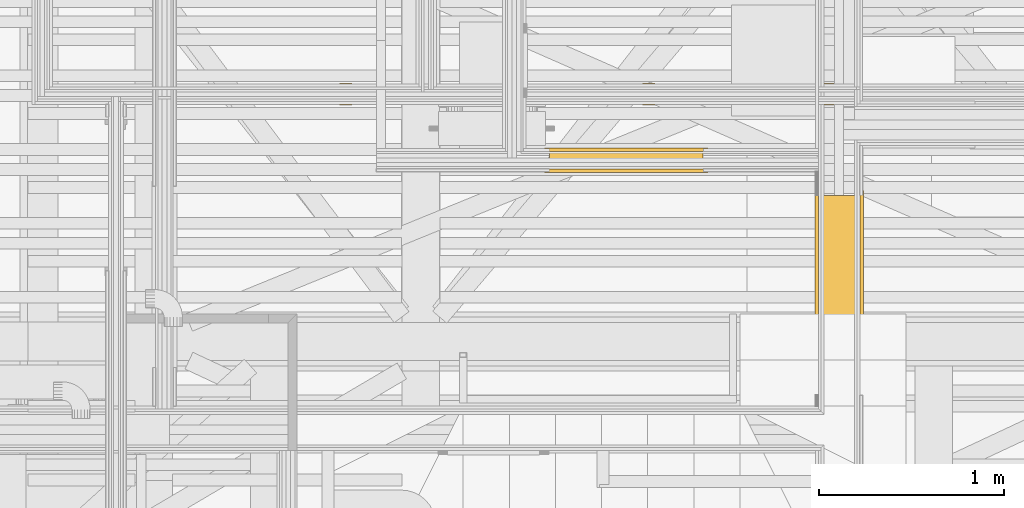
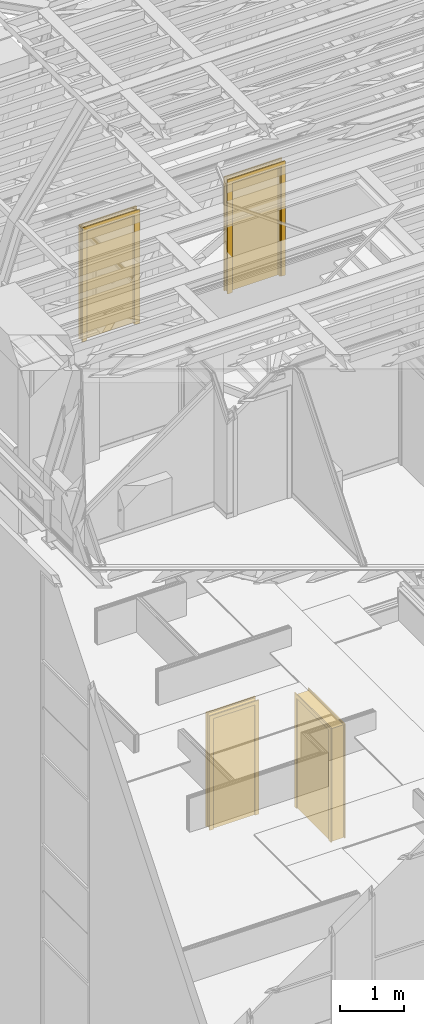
# One storey, part 123 of 183: 4 doors.
"""IFC2X3 building model written with IfcOpenShell, lengths in metres."""

import ifcopenshell
import ifcopenshell.guid

model = None  # the IFC model being written
_history = None  # IfcOwnerHistory: only IFC2X3 demands one
_inside = {}  # id of a spatial element -> (the spatial element, [elements in it])
_under = {}  # id of a project, library or spatial element -> (it, [spatial elements below it])
_declared = {}  # id of a project -> (the project, [libraries it declares])
_typed = {}  # id of a type object -> (the type object, [elements of that type])
_made_of = {}  # id of a material, layer set ... -> (it, [elements and type objects made of it])


def new_model(schema):
    """Start an empty IFC model of exactly this schema.

    Asked for "IFC4X3", IfcOpenShell would pick the latest addendum, in which some entities
    have other attributes; the version numbers below select the first issue.
    IFC2X3 requires an IfcOwnerHistory on every rooted entity: one is made here for all.
    """
    global model, _history
    if schema == "IFC4X3":
        model = ifcopenshell.file(schema_version=(4, 3, 0, 0))
    else:
        model = ifcopenshell.file(schema=schema)
    _inside.clear()
    _under.clear()
    _declared.clear()
    _typed.clear()
    _made_of.clear()
    _history = None
    if model.schema == "IFC2X3":
        org = make("IfcOrganization", Name="unknown")
        user = make(
            "IfcPersonAndOrganization",
            ThePerson=make("IfcPerson", FamilyName="unknown"),
            TheOrganization=org,
        )
        app = make(
            "IfcApplication",
            ApplicationDeveloper=org,
            Version="unknown",
            ApplicationFullName="unknown",
            ApplicationIdentifier="unknown",
        )
        _history = make(
            "IfcOwnerHistory",
            OwningUser=user,
            OwningApplication=app,
            ChangeAction="ADDED",
            CreationDate=0,
        )
    return model


def make(cls, **values):
    """One entity of the class cls with the attributes given. An attribute that is None is left unset."""
    return model.create_entity(
        cls, **{name: value for name, value in values.items() if value is not None}
    )


def entity(cls, *values):
    """Any entity or typed value of the class cls, its attributes in the order of the schema. None: left unset."""
    e = model.create_entity(cls)
    for i, value in enumerate(values):
        if value is not None:
            e[i] = value
    return e


def rooted(cls, **values):
    """An entity with a GlobalId (a new one), such as an element, a storey or a relation."""
    return make(cls, GlobalId=ifcopenshell.guid.new(), OwnerHistory=_history, **values)


def si_unit(unit_type, name, prefix=None):
    """IfcSIUnit, for example si_unit("LENGTHUNIT", "METRE", prefix="MILLI")."""
    return make("IfcSIUnit", UnitType=unit_type, Prefix=prefix, Name=name)


def converted_unit(unit_type, name, factor, base, dimensions=None, offset=None):
    """IfcConversionBasedUnit, such as the inch: factor (a typed value) times the base unit."""
    return make(
        "IfcConversionBasedUnit"
        if offset is None
        else "IfcConversionBasedUnitWithOffset",
        ConversionOffset=offset,
        Dimensions=None
        if dimensions is None
        else entity("IfcDimensionalExponents", *dimensions),
        UnitType=unit_type,
        Name=name,
        ConversionFactor=make(
            "IfcMeasureWithUnit", ValueComponent=factor, UnitComponent=base
        ),
    )


def derived_unit(unit_type, elements):
    """IfcDerivedUnit: a product of units, each with its exponent."""
    return make(
        "IfcDerivedUnit",
        Elements=[
            make("IfcDerivedUnitElement", Unit=unit, Exponent=power)
            for unit, power in elements
        ],
        UnitType=unit_type,
    )


def money_unit(currency):
    """IfcMonetaryUnit."""
    return make("IfcMonetaryUnit", Currency=currency)


def assignment(units):
    """IfcUnitAssignment: the units of a project."""
    return None if units is None else make("IfcUnitAssignment", Units=units)


def point(xyz):
    """IfcCartesianPoint."""
    return None if xyz is None else make("IfcCartesianPoint", Coordinates=xyz)


def direction(xyz):
    """IfcDirection."""
    return None if xyz is None else make("IfcDirection", DirectionRatios=xyz)


def frame(location, z_axis=None, x_axis=None):
    """IfcAxis2Placement3D, a coordinate frame: its origin and axes. An axis left out is left unset."""
    return make(
        "IfcAxis2Placement3D",
        Location=point(location),
        Axis=direction(z_axis),
        RefDirection=direction(x_axis),
    )


def origin_with_axes():
    """The frame at (0, 0, 0) with the z axis (0, 0, 1) and the x axis (1, 0, 0) written out."""
    return frame((0.0, 0.0, 0.0), z_axis=(0.0, 0.0, 1.0), x_axis=(1.0, 0.0, 0.0))


def place(relative_to, where):
    """IfcLocalPlacement: puts the frame where relative to a parent placement (None: the world)."""
    return make(
        "IfcLocalPlacement", PlacementRelTo=relative_to, RelativePlacement=where
    )


def context(
    kind, dimensions, precision=None, world=None, true_north=None, identifier=None
):
    """IfcGeometricRepresentationContext, for example the 3D "Model" context."""
    return make(
        "IfcGeometricRepresentationContext",
        ContextIdentifier=identifier,
        ContextType=kind,
        CoordinateSpaceDimension=dimensions,
        Precision=precision,
        WorldCoordinateSystem=world,
        TrueNorth=true_north,
    )


def subcontext(parent, identifier, kind, view, scale=None):
    """IfcGeometricRepresentationSubContext, for example "Body" below "Model"."""
    return make(
        "IfcGeometricRepresentationSubContext",
        ContextIdentifier=identifier,
        ContextType=kind,
        ParentContext=parent,
        TargetScale=scale,
        TargetView=view,
    )


def project(units=None, contexts=None):
    """IfcProject with its units and contexts."""
    return rooted(
        "IfcProject",
        Name="project",
        RepresentationContexts=contexts,
        UnitsInContext=assignment(units),
    )


def spatial(cls, under=None, at=None, **own):
    """A site, building, storey or space (cls), placed at a placement, below another one or the project."""
    s = rooted(cls, ObjectPlacement=at, **own)
    if under is not None:
        _under.setdefault(under.id(), (under, []))[1].append(s)
    return s


def faces_of(points, faces, orient=None, outer=None):
    """IfcFace entities. A face is a list of loops; a loop is a list of indices into points, from 0.

    orient and outer hold one flag for each loop. By default every Orientation is true, the
    first loop of a face is its IfcFaceOuterBound and the others are IfcFaceBound.
    """
    made = []
    for i, loops in enumerate(faces):
        bounds = []
        for j, loop in enumerate(loops):
            is_outer = j == 0 if outer is None else outer[i][j]
            bounds.append(
                make(
                    "IfcFaceOuterBound" if is_outer else "IfcFaceBound",
                    Bound=make("IfcPolyLoop", Polygon=[points[k] for k in loop]),
                    Orientation=True if orient is None else orient[i][j],
                )
            )
        made.append(make("IfcFace", Bounds=bounds))
    return made


def faceted_brep(points, faces, orient=None, outer=None, voids=None):
    """IfcFacetedBrep: a solid bounded by flat faces; with voids (closed shells), ...WithVoids."""
    shared = [point(p) for p in points]
    hull = make("IfcClosedShell", CfsFaces=faces_of(shared, faces, orient, outer))
    if voids is None:
        return make("IfcFacetedBrep", Outer=hull)
    return make(
        "IfcFacetedBrepWithVoids",
        Outer=hull,
        Voids=[
            make(cls, CfsFaces=faces_of(shared, fs, o, b)) for cls, fs, o, b in voids
        ],
    )


def shape(context_of_items, identifier, shape_type, items):
    """IfcShapeRepresentation: the items that make up one representation, for example the "Body"."""
    return make(
        "IfcShapeRepresentation",
        ContextOfItems=context_of_items,
        RepresentationIdentifier=identifier,
        RepresentationType=shape_type,
        Items=items,
    )


def material(Name=None, Category=None):
    """IfcMaterial."""
    return make("IfcMaterial", Name=Name, Category=Category)


def made_of(thing, what):
    """Note that an element or type object is made of a material, layer set ...; save() writes the relation."""
    if what is not None:
        _made_of.setdefault(what.id(), (what, []))[1].append(thing)
    return thing


def type_object(cls, material=None, **own):
    """A type object (cls), such as IfcWallType, which elements share."""
    return made_of(rooted(cls, **own), material)


def element(
    cls,
    number,
    at=None,
    inside=None,
    cuts=None,
    type_object=None,
    material=None,
    context=None,
    identifier="Body",
    shape_type=None,
    held_by="IfcProductDefinitionShape",
    body=None,
    shapes=None,
    **own,
):
    """One element of the class cls, such as IfcWall. Its Tag is "e" and its number.

    at: its placement. inside: the storey or other place that contains it. cuts: it is an
    opening in that element (IfcRelVoidsElement). A single representation is given by context,
    identifier, shape_type and body (its items); several are given by shapes. held_by: the class
    of the entity that holds the representations. save() writes the other relations.
    """
    e = rooted(cls, Tag="e%d" % number, ObjectPlacement=at, **own)
    if body is not None:
        shapes = [shape(context, identifier, shape_type, body)]
    if shapes is not None:
        e.Representation = make(held_by, Representations=shapes)
    if inside is not None:
        _inside.setdefault(inside.id(), (inside, []))[1].append(e)
    if cuts is not None:
        rooted(
            "IfcRelVoidsElement", RelatingBuildingElement=cuts, RelatedOpeningElement=e
        )
    if type_object is not None:
        _typed.setdefault(type_object.id(), (type_object, []))[1].append(e)
    return made_of(e, material)


def aggregate(whole, parts):
    """IfcRelAggregates: a whole, such as a stair, and the parts it consists of."""
    return rooted("IfcRelAggregates", RelatingObject=whole, RelatedObjects=parts)


def save(model, path):
    """Write the relations noted so far, then the file.

    IfcRelAggregates (storeys below a building ...), IfcRelContainedInSpatialStructure (elements
    in a storey), IfcRelDefinesByType, IfcRelAssociatesMaterial and IfcRelDeclares: one each for
    every whole, place, type object, material and project.
    """
    for whole, parts in _under.values():
        aggregate(whole, parts)
    for where, things in _inside.values():
        rooted(
            "IfcRelContainedInSpatialStructure",
            RelatedElements=things,
            RelatingStructure=where,
        )
    for kind, things in _typed.values():
        rooted("IfcRelDefinesByType", RelatedObjects=things, RelatingType=kind)
    for what, things in _made_of.values():
        rooted("IfcRelAssociatesMaterial", RelatedObjects=things, RelatingMaterial=what)
    for by, libraries in _declared.values():
        rooted("IfcRelDeclares", RelatingContext=by, RelatedDefinitions=libraries)
    model.write(path)


model = new_model("IFC2X3")

# Units and contexts
model_context = context("Model", 3, precision=1e-05, world=origin_with_axes(), true_north=direction((0.0, 1.0)))
body_context = subcontext(model_context, "Body", "Model", "MODEL_VIEW", scale=1.0)
ifc_project = project(units=[si_unit("LENGTHUNIT", "METRE"), si_unit("AREAUNIT", "SQUARE_METRE"), si_unit("VOLUMEUNIT", "CUBIC_METRE"), si_unit("ABSORBEDDOSEUNIT", "GRAY"), si_unit("AMOUNTOFSUBSTANCEUNIT", "MOLE"), si_unit("DOSEEQUIVALENTUNIT", "SIEVERT"), si_unit("ELECTRICCAPACITANCEUNIT", "FARAD"), si_unit("ELECTRICCHARGEUNIT", "COULOMB"), si_unit("ELECTRICCONDUCTANCEUNIT", "SIEMENS"), si_unit("ELECTRICCURRENTUNIT", "AMPERE"), si_unit("ELECTRICRESISTANCEUNIT", "OHM"), si_unit("ELECTRICVOLTAGEUNIT", "VOLT"), si_unit("ENERGYUNIT", "JOULE"), si_unit("FORCEUNIT", "NEWTON"), si_unit("FREQUENCYUNIT", "HERTZ"), si_unit("ILLUMINANCEUNIT", "LUX"), si_unit("INDUCTANCEUNIT", "HENRY"), si_unit("LUMINOUSFLUXUNIT", "LUMEN"), si_unit("LUMINOUSINTENSITYUNIT", "CANDELA"), si_unit("MAGNETICFLUXDENSITYUNIT", "TESLA"), si_unit("MAGNETICFLUXUNIT", "WEBER"), si_unit("MASSUNIT", "GRAM"), converted_unit("PLANEANGLEUNIT", "degree", entity("IfcReal", 0.0174532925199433), si_unit("PLANEANGLEUNIT", "RADIAN"), dimensions=[0, 0, 0, 0, 0, 0, 0]), si_unit("POWERUNIT", "WATT"), si_unit("PRESSUREUNIT", "PASCAL"), si_unit("RADIOACTIVITYUNIT", "BECQUEREL"), si_unit("SOLIDANGLEUNIT", "STERADIAN"), si_unit("THERMODYNAMICTEMPERATUREUNIT", "KELVIN"), si_unit("TIMEUNIT", "SECOND"), derived_unit("ACCELERATIONUNIT", [(si_unit("LENGTHUNIT", "METRE"), 1), (si_unit("TIMEUNIT", "SECOND"), -2)]), derived_unit("ANGULARVELOCITYUNIT", [(converted_unit("PLANEANGLEUNIT", "degree", entity("IfcReal", 0.0174532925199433), si_unit("PLANEANGLEUNIT", "RADIAN"), dimensions=[0, 0, 0, 0, 0, 0, 0]), 1), (si_unit("TIMEUNIT", "SECOND"), -1)]), derived_unit("CURVATUREUNIT", [(converted_unit("PLANEANGLEUNIT", "degree", entity("IfcReal", 0.0174532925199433), si_unit("PLANEANGLEUNIT", "RADIAN"), dimensions=[0, 0, 0, 0, 0, 0, 0]), 1), (si_unit("LENGTHUNIT", "METRE"), -1)]), derived_unit("DYNAMICVISCOSITYUNIT", [(si_unit("PRESSUREUNIT", "PASCAL"), 1), (si_unit("TIMEUNIT", "SECOND"), 1)]), derived_unit("HEATFLUXDENSITYUNIT", [(si_unit("POWERUNIT", "WATT"), 1), (si_unit("LENGTHUNIT", "METRE"), -2)]), derived_unit("HEATINGVALUEUNIT", [(si_unit("ENERGYUNIT", "JOULE"), 1), (si_unit("MASSUNIT", "GRAM"), -1)]), derived_unit("INTEGERCOUNTRATEUNIT", [(si_unit("TIMEUNIT", "SECOND"), -1)]), derived_unit("IONCONCENTRATIONUNIT", [(si_unit("MASSUNIT", "GRAM"), 1), (si_unit("VOLUMEUNIT", "CUBIC_METRE"), -1)]), derived_unit("ISOTHERMALMOISTURECAPACITYUNIT", [(si_unit("VOLUMEUNIT", "CUBIC_METRE"), 1), (si_unit("MASSUNIT", "GRAM"), -1)]), derived_unit("KINEMATICVISCOSITYUNIT", [(si_unit("AREAUNIT", "SQUARE_METRE"), 1), (si_unit("TIMEUNIT", "SECOND"), -1)]), derived_unit("LINEARFORCEUNIT", [(si_unit("FORCEUNIT", "NEWTON"), 1), (si_unit("LENGTHUNIT", "METRE"), -1)]), derived_unit("LINEARMOMENTUNIT", [(si_unit("FORCEUNIT", "NEWTON"), 1), (si_unit("LENGTHUNIT", "METRE"), -1)]), derived_unit("LINEARSTIFFNESSUNIT", [(si_unit("FORCEUNIT", "NEWTON"), 1), (si_unit("LENGTHUNIT", "METRE"), -1)]), derived_unit("LINEARVELOCITYUNIT", [(si_unit("LENGTHUNIT", "METRE"), 1), (si_unit("TIMEUNIT", "SECOND"), -1)]), derived_unit("LUMINOUSINTENSITYDISTRIBUTIONUNIT", [(si_unit("LUMINOUSINTENSITYUNIT", "CANDELA"), 1), (si_unit("LUMINOUSFLUXUNIT", "LUMEN"), -1)]), derived_unit("MASSDENSITYUNIT", [(si_unit("MASSUNIT", "GRAM"), 1), (si_unit("VOLUMEUNIT", "CUBIC_METRE"), -1)]), derived_unit("MASSFLOWRATEUNIT", [(si_unit("MASSUNIT", "GRAM"), 1), (si_unit("TIMEUNIT", "SECOND"), -1)]), derived_unit("MASSPERLENGTHUNIT", [(si_unit("MASSUNIT", "GRAM"), 1), (si_unit("LENGTHUNIT", "METRE"), -1)]), derived_unit("MODULUSOFELASTICITYUNIT", [(si_unit("FORCEUNIT", "NEWTON"), 1), (si_unit("AREAUNIT", "SQUARE_METRE"), -1)]), derived_unit("MODULUSOFLINEARSUBGRADEREACTIONUNIT", [(si_unit("FORCEUNIT", "NEWTON"), 1), (si_unit("LENGTHUNIT", "METRE"), -2)]), derived_unit("MODULUSOFROTATIONALSUBGRADEREACTIONUNIT", [(si_unit("FORCEUNIT", "NEWTON"), 1), (si_unit("LENGTHUNIT", "METRE"), 1)]), derived_unit("MODULUSOFSUBGRADEREACTIONUNIT", [(si_unit("FORCEUNIT", "NEWTON"), 1), (si_unit("VOLUMEUNIT", "CUBIC_METRE"), -1)]), derived_unit("MOISTUREDIFFUSIVITYUNIT", [(si_unit("VOLUMEUNIT", "CUBIC_METRE"), 1), (si_unit("TIMEUNIT", "SECOND"), -1)]), derived_unit("MOLECULARWEIGHTUNIT", [(si_unit("MASSUNIT", "GRAM"), 1), (si_unit("AMOUNTOFSUBSTANCEUNIT", "MOLE"), -1)]), derived_unit("PLANARFORCEUNIT", [(si_unit("FORCEUNIT", "NEWTON"), 1), (si_unit("LENGTHUNIT", "METRE"), -2)]), derived_unit("ROTATIONALFREQUENCYUNIT", [(si_unit("TIMEUNIT", "SECOND"), -1)]), derived_unit("ROTATIONALMASSUNIT", [(si_unit("MASSUNIT", "GRAM"), 1), (si_unit("LENGTHUNIT", "METRE"), 2)]), derived_unit("ROTATIONALSTIFFNESSUNIT", [(si_unit("FORCEUNIT", "NEWTON"), 1), (si_unit("LENGTHUNIT", "METRE"), 1), (converted_unit("PLANEANGLEUNIT", "degree", entity("IfcReal", 0.0174532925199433), si_unit("PLANEANGLEUNIT", "RADIAN"), dimensions=[0, 0, 0, 0, 0, 0, 0]), -1)]), derived_unit("SECTIONAREAINTEGRALUNIT", [(si_unit("LENGTHUNIT", "METRE"), 5)]), derived_unit("SECTIONMODULUSUNIT", [(si_unit("LENGTHUNIT", "METRE"), 3)]), derived_unit("SHEARMODULUSUNIT", [(si_unit("FORCEUNIT", "NEWTON"), 1), (si_unit("AREAUNIT", "SQUARE_METRE"), -1)]), derived_unit("SOUNDPOWERUNIT", [(si_unit("ENERGYUNIT", "JOULE"), 1), (si_unit("TIMEUNIT", "SECOND"), -1)]), derived_unit("SPECIFICHEATCAPACITYUNIT", [(si_unit("FORCEUNIT", "NEWTON"), 1), (si_unit("MASSUNIT", "GRAM"), -1), (si_unit("THERMODYNAMICTEMPERATUREUNIT", "KELVIN"), -1)]), derived_unit("TEMPERATUREGRADIENTUNIT", [(si_unit("THERMODYNAMICTEMPERATUREUNIT", "KELVIN"), 1), (si_unit("LENGTHUNIT", "METRE"), -1)]), derived_unit("THERMALADMITTANCEUNIT", [(si_unit("POWERUNIT", "WATT"), 1), (si_unit("AREAUNIT", "SQUARE_METRE"), -1), (si_unit("THERMODYNAMICTEMPERATUREUNIT", "KELVIN"), -1)]), derived_unit("THERMALCONDUCTANCEUNIT", [(si_unit("POWERUNIT", "WATT"), 1), (si_unit("LENGTHUNIT", "METRE"), -1), (si_unit("THERMODYNAMICTEMPERATUREUNIT", "KELVIN"), -1)]), derived_unit("THERMALEXPANSIONCOEFFICIENTUNIT", [(si_unit("THERMODYNAMICTEMPERATUREUNIT", "KELVIN"), -1)]), derived_unit("THERMALRESISTANCEUNIT", [(si_unit("AREAUNIT", "SQUARE_METRE"), 1), (si_unit("POWERUNIT", "WATT"), -1)]), derived_unit("THERMALTRANSMITTANCEUNIT", [(si_unit("POWERUNIT", "WATT"), 1), (si_unit("AREAUNIT", "SQUARE_METRE"), -1), (si_unit("THERMODYNAMICTEMPERATUREUNIT", "KELVIN"), -1)]), derived_unit("TORQUEUNIT", [(si_unit("FORCEUNIT", "NEWTON"), 1), (si_unit("LENGTHUNIT", "METRE"), 1)]), derived_unit("VAPORPERMEABILITYUNIT", [(si_unit("MASSUNIT", "GRAM"), 1), (si_unit("TIMEUNIT", "SECOND"), -1)]), derived_unit("VOLUMETRICFLOWRATEUNIT", [(si_unit("VOLUMEUNIT", "CUBIC_METRE"), 1), (si_unit("TIMEUNIT", "SECOND"), -1)]), derived_unit("WARPINGCONSTANTUNIT", [(si_unit("LENGTHUNIT", "METRE"), 6)]), derived_unit("WARPINGMOMENTUNIT", [(si_unit("FORCEUNIT", "NEWTON"), 1), (si_unit("LENGTHUNIT", "METRE"), 2)]), money_unit("GBP")], contexts=[model_context])

# Site, building, storey, space
site_placement = place(None, origin_with_axes())
site = spatial("IfcSite", under=ifc_project, at=site_placement, Name="Site", CompositionType="ELEMENT")
building_placement = place(site_placement, origin_with_axes())
building = spatial("IfcBuilding", under=site, at=building_placement, Name="Building01", CompositionType="ELEMENT")
storey_placement = place(building_placement, frame((0.0, 0.0, 5.15), z_axis=(0.0, 0.0, 1.0), x_axis=(1.0, 0.0, 0.0)))
storey = spatial("IfcBuildingStorey", under=building, at=storey_placement, Name="1F", CompositionType="ELEMENT", Elevation=5.15)
space_1_placement = place(storey_placement, frame((1.009939, 13.890379, 9.81), z_axis=(0.0, 0.0, 1.0), x_axis=(0.0, -1.0, 0.0)))
space_1 = spatial("IfcSpace", under=storey, at=space_1_placement, Name="26", CompositionType="ELEMENT", InteriorOrExteriorSpace="NOTDEFINED")

# Doors
ifc_material = material(Name="A_BSUK_Doors")
door_style_1 = type_object("IfcDoorStyle", Name="A-Doors-SingleFlush", ConstructionType="USERDEFINED", OperationType="SINGLE_SWING_RIGHT", ParameterTakesPrecedence=False, Sizeable=False)
door_1_placement = place(storey_placement, frame((6.180024, 10.179939, 9.78), z_axis=(0.0, 0.0, 1.0), x_axis=(1.0, 0.0, 0.0)))
element("IfcDoor", 1, at=door_1_placement, inside=space_1, type_object=door_style_1, material=ifc_material, Name="4.29", ObjectType="A-Doors-SingleFlush", OverallHeight=2.16900000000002, OverallWidth=1.03800000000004, context=body_context, shape_type="Brep", body=[
    faceted_brep([(0.9, -0.099, 0.0), (0.969, -0.099, 0.0), (0.969, -0.099, 2.169), (-0.069, -0.099, 2.169), (-0.069, -0.099, 0.0), (0.0, -0.099, 0.0), (0.0, -0.099, 2.1), (0.9, -0.099, 2.1), (-0.069, -0.08, 0.0), (-0.069, -0.08, 2.169), (0.969, -0.08, 2.169), (0.969, -0.08, 0.0), (0.9, 0.019, 0.0), (0.969, 0.019, 0.0), (0.969, 0.0, 0.0), (0.942, 0.0, 0.0), (0.942, -0.08, 0.0), (0.9, 0.019, 2.1), (0.0, 0.019, 2.1), (0.0, 0.019, 0.0), (-0.069, 0.019, 0.0), (-0.069, 0.019, 2.169), (0.969, 0.019, 2.169), (0.969, 0.0, 2.169), (0.942, -0.08, 2.142), (0.942, 0.0, 2.142), (-0.042, -0.08, 2.142), (-0.042, 0.0, 2.142), (-0.042, -0.08, 0.0), (-0.042, 0.0, 0.0), (-0.069, 0.0, 2.169), (-0.069, 0.0, 0.0)], [[[0, 1, 2, 3, 4, 5, 6, 7]], [[8, 4, 3, 9]], [[10, 2, 1, 11]], [[9, 3, 2, 10]], [[12, 13, 14, 15, 16, 11, 1, 0]], [[7, 17, 12, 0]], [[6, 18, 17, 7]], [[18, 19, 20, 21, 22, 13, 12, 17]], [[5, 19, 18, 6]], [[13, 22, 23, 14]], [[24, 16, 15, 25]], [[26, 24, 25, 27]], [[11, 16, 24, 26, 28, 8, 9, 10]], [[27, 29, 28, 26]], [[25, 15, 14, 23, 30, 31, 29, 27]], [[5, 4, 8, 28, 29, 31, 20, 19]], [[30, 21, 20, 31]], [[23, 22, 21, 30]]]),
    faceted_brep([(0.0, -0.09, 2.1), (0.0, -0.04, 2.1), (0.0, -0.04, 0.0), (0.0, -0.09, 0.0), (0.875, -0.09, 0.0), (0.9, -0.09, 0.0), (0.9, -0.09, 2.1), (0.025, -0.09, 0.0), (0.025, -0.09, 2.075), (0.875, -0.09, 2.075), (0.875, -0.04, 0.0), (0.9, -0.04, 0.0), (0.9, -0.04, 2.1), (0.025, -0.04, 2.075), (0.025, -0.04, 0.0), (0.875, -0.04, 2.075)], [[[0, 1, 2, 3]], [[4, 5, 6, 0, 3, 7, 8, 9]], [[10, 11, 5, 4]], [[6, 12, 1, 0]], [[5, 11, 12, 6]], [[13, 14, 2, 1, 12, 11, 10, 15]], [[7, 14, 13, 8]], [[7, 3, 2, 14]], [[9, 15, 10, 4]], [[8, 13, 15, 9]]]),
    faceted_brep([(0.9, -0.04, 0.0), (0.9, 0.0, 0.0), (0.9, 0.0, 2.1), (0.9, -0.04, 2.1), (0.0, -0.04, 2.1), (0.0, 0.0, 2.1), (0.0, 0.0, 0.0), (0.0, -0.04, 0.0)], [[[0, 1, 2, 3]], [[4, 5, 6, 7]], [[7, 6, 1, 0]], [[3, 4, 7, 0]], [[3, 2, 5, 4]], [[1, 6, 5, 2]]]),
])
door_style_2 = type_object("IfcDoorStyle", Name="A-Doors-SingleFlush", ConstructionType="USERDEFINED", OperationType="SINGLE_SWING_LEFT", ParameterTakesPrecedence=False, Sizeable=False)
door_2_placement = place(storey_placement, frame((3.57, 10.179939, 9.78), z_axis=(0.0, 0.0, 1.0), x_axis=(1.0, 0.0, 0.0)))
element("IfcDoor", 2, at=door_2_placement, inside=space_1, type_object=door_style_2, material=ifc_material, Name="4.27", ObjectType="A-Doors-SingleFlush", OverallHeight=2.16900000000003, OverallWidth=1.03800000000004, context=body_context, shape_type="Brep", body=[
    faceted_brep([(0.0, -0.099, 2.1), (0.9, -0.099, 2.1), (0.9, -0.099, 0.0), (0.969, -0.099, 0.0), (0.969, -0.099, 2.169), (-0.069, -0.099, 2.169), (-0.069, -0.099, 0.0), (0.0, -0.099, 0.0), (0.969, -0.08, 2.169), (0.969, -0.08, 0.0), (-0.069, -0.08, 0.0), (-0.069, -0.08, 2.169), (-0.042, -0.08, 0.0), (-0.042, 0.0, 0.0), (-0.069, 0.0, 0.0), (-0.069, 0.019, 0.0), (0.0, 0.019, 0.0), (0.0, 0.019, 2.1), (0.9, 0.019, 2.1), (-0.069, 0.019, 2.169), (0.969, 0.019, 2.169), (0.969, 0.019, 0.0), (0.9, 0.019, 0.0), (-0.069, 0.0, 2.169), (-0.042, 0.0, 2.142), (-0.042, -0.08, 2.142), (0.942, 0.0, 2.142), (0.942, -0.08, 2.142), (0.942, -0.08, 0.0), (0.942, 0.0, 0.0), (0.969, 0.0, 0.0), (0.969, 0.0, 2.169)], [[[0, 1, 2, 3, 4, 5, 6, 7]], [[8, 4, 3, 9]], [[10, 6, 5, 11]], [[11, 5, 4, 8]], [[7, 6, 10, 12, 13, 14, 15, 16]], [[7, 16, 17, 0]], [[0, 17, 18, 1]], [[17, 16, 15, 19, 20, 21, 22, 18]], [[1, 18, 22, 2]], [[14, 23, 19, 15]], [[24, 13, 12, 25]], [[26, 24, 25, 27]], [[11, 8, 9, 28, 27, 25, 12, 10]], [[27, 28, 29, 26]], [[26, 29, 30, 31, 23, 14, 13, 24]], [[22, 21, 30, 29, 28, 9, 3, 2]], [[30, 21, 20, 31]], [[31, 20, 19, 23]]]),
    faceted_brep([(0.9, -0.09, 0.0), (0.9, -0.04, 0.0), (0.9, -0.04, 2.1), (0.9, -0.09, 2.1), (0.025, -0.09, 2.075), (0.875, -0.09, 2.075), (0.875, -0.09, 0.0), (0.0, -0.09, 2.1), (0.0, -0.09, 0.0), (0.025, -0.09, 0.0), (0.0, -0.04, 0.0), (0.025, -0.04, 0.0), (0.0, -0.04, 2.1), (0.025, -0.04, 2.075), (0.875, -0.04, 0.0), (0.875, -0.04, 2.075)], [[[0, 1, 2, 3]], [[4, 5, 6, 0, 3, 7, 8, 9]], [[9, 8, 10, 11]], [[3, 2, 12, 7]], [[7, 12, 10, 8]], [[13, 11, 10, 12, 2, 1, 14, 15]], [[5, 15, 14, 6]], [[14, 1, 0, 6]], [[9, 11, 13, 4]], [[4, 13, 15, 5]]]),
    faceted_brep([(0.0, -0.04, 2.1), (0.0, 0.0, 2.1), (0.0, 0.0, 0.0), (0.0, -0.04, 0.0), (0.9, -0.04, 0.0), (0.9, 0.0, 0.0), (0.9, 0.0, 2.1), (0.9, -0.04, 2.1)], [[[0, 1, 2, 3]], [[4, 5, 6, 7]], [[3, 2, 5, 4]], [[3, 4, 7, 0]], [[7, 6, 1, 0]], [[1, 6, 5, 2]]]),
])

# Space
space_2_placement = place(storey_placement, frame((3.569669, 8.43567, 0.017975), z_axis=(0.0, 0.0, 1.0), x_axis=(1.0, 0.0, 0.0)))
space_2 = spatial("IfcSpace", under=storey, at=space_2_placement, Name="corridor", CompositionType="ELEMENT", InteriorOrExteriorSpace="NOTDEFINED")

# Door
door_style_3 = type_object("IfcDoorStyle", Name="A-Doors-SingleFlush", ConstructionType="USERDEFINED", OperationType="SINGLE_SWING_LEFT", ParameterTakesPrecedence=False, Sizeable=False)
door_3_placement = place(storey_placement, frame((7.064669, 8.550704, 0.0), z_axis=(0.0, 0.0, 1.0), x_axis=(0.0, 1.0, 0.0)))
element("IfcDoor", 3, at=door_3_placement, inside=space_2, type_object=door_style_3, material=ifc_material, Name="1.20", ObjectType="A-Doors-SingleFlush", OverallHeight=2.16900000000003, OverallWidth=1.13800000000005, context=body_context, shape_type="Brep", body=[
    faceted_brep([(0.0, -0.244, 2.1), (1.0, -0.244, 2.1), (1.0, -0.244, 0.0), (1.069, -0.244, 0.0), (1.069, -0.244, 2.169), (-0.069, -0.244, 2.169), (-0.069, -0.244, 0.0), (0.0, -0.244, 0.0), (1.069, -0.225, 2.169), (1.069, -0.225, 0.0), (-0.069, -0.225, 0.0), (-0.069, -0.225, 2.169), (-0.042, -0.225, 0.0), (-0.042, 0.0, 0.0), (-0.069, 0.0, 0.0), (-0.069, 0.019, 0.0), (0.0, 0.019, 0.0), (0.0, 0.019, 2.1), (1.0, 0.019, 2.1), (-0.069, 0.019, 2.169), (1.069, 0.019, 2.169), (1.069, 0.019, 0.0), (1.0, 0.019, 0.0), (-0.069, 0.0, 2.169), (-0.042, 0.0, 2.142), (-0.042, -0.225, 2.142), (1.042, 0.0, 2.142), (1.042, -0.225, 2.142), (1.042, -0.225, 0.0), (1.042, 0.0, 0.0), (1.069, 0.0, 0.0), (1.069, 0.0, 2.169)], [[[0, 1, 2, 3, 4, 5, 6, 7]], [[8, 4, 3, 9]], [[10, 6, 5, 11]], [[11, 5, 4, 8]], [[7, 6, 10, 12, 13, 14, 15, 16]], [[7, 16, 17, 0]], [[0, 17, 18, 1]], [[17, 16, 15, 19, 20, 21, 22, 18]], [[1, 18, 22, 2]], [[14, 23, 19, 15]], [[24, 13, 12, 25]], [[26, 24, 25, 27]], [[11, 8, 9, 28, 27, 25, 12, 10]], [[27, 28, 29, 26]], [[26, 29, 30, 31, 23, 14, 13, 24]], [[22, 21, 30, 29, 28, 9, 3, 2]], [[30, 21, 20, 31]], [[31, 20, 19, 23]]]),
    faceted_brep([(1.0, -0.09, 0.0), (1.0, -0.04, 0.0), (1.0, -0.04, 2.1), (1.0, -0.09, 2.1), (0.025, -0.09, 2.075), (0.975, -0.09, 2.075), (0.975, -0.09, 0.0), (0.0, -0.09, 2.1), (0.0, -0.09, 0.0), (0.025, -0.09, 0.0), (0.0, -0.04, 0.0), (0.025, -0.04, 0.0), (0.0, -0.04, 2.1), (0.025, -0.04, 2.075), (0.975, -0.04, 0.0), (0.975, -0.04, 2.075)], [[[0, 1, 2, 3]], [[4, 5, 6, 0, 3, 7, 8, 9]], [[9, 8, 10, 11]], [[3, 2, 12, 7]], [[7, 12, 10, 8]], [[13, 11, 10, 12, 2, 1, 14, 15]], [[5, 15, 14, 6]], [[14, 1, 0, 6]], [[9, 11, 13, 4]], [[4, 13, 15, 5]]]),
    faceted_brep([(0.0, -0.04, 2.1), (0.0, 0.0, 2.1), (0.0, 0.0, 0.0), (0.0, -0.04, 0.0), (1.0, -0.04, 0.0), (1.0, 0.0, 0.0), (1.0, 0.0, 2.1), (1.0, -0.04, 2.1)], [[[0, 1, 2, 3]], [[4, 5, 6, 7]], [[3, 2, 5, 4]], [[3, 4, 7, 0]], [[7, 6, 1, 0]], [[1, 6, 5, 2]]]),
])

# Space
space_3_placement = place(storey_placement, frame((7.064669, 14.582, 0.017975), z_axis=(0.0, 0.0, 1.0), x_axis=(-1.0, 0.0, 0.0)))
space_3 = spatial("IfcSpace", under=storey, at=space_3_placement, Name="07", CompositionType="ELEMENT", InteriorOrExteriorSpace="NOTDEFINED")

# Door
door_style_4 = type_object("IfcDoorStyle", Name="A-Doors-SingleFlush", ConstructionType="USERDEFINED", OperationType="SINGLE_SWING_RIGHT", ParameterTakesPrecedence=False, Sizeable=False)
door_4_placement = place(storey_placement, frame((6.398669, 9.73567, 0.0), z_axis=(0.0, 0.0, 1.0), x_axis=(-1.0, 0.0, 0.0)))
element("IfcDoor", 4, at=door_4_placement, inside=space_3, type_object=door_style_4, material=ifc_material, Name="1.22", ObjectType="A-Doors-SingleFlush", OverallHeight=2.16900000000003, OverallWidth=0.888000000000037, context=body_context, shape_type="Brep", body=[
    faceted_brep([(0.75, -0.114, 0.0), (0.819, -0.114, 0.0), (0.819, -0.114, 2.169), (-0.069, -0.114, 2.169), (-0.069, -0.114, 0.0), (0.0, -0.114, 0.0), (0.0, -0.114, 2.1), (0.75, -0.114, 2.1), (-0.069, -0.095, 0.0), (-0.069, -0.095, 2.169), (0.819, -0.095, 2.169), (0.819, -0.095, 0.0), (0.75, 0.019, 0.0), (0.819, 0.019, 0.0), (0.819, 0.0, 0.0), (0.792, 0.0, 0.0), (0.792, -0.095, 0.0), (0.75, 0.019, 2.1), (0.0, 0.019, 2.1), (0.0, 0.019, 0.0), (-0.069, 0.019, 0.0), (-0.069, 0.019, 2.169), (0.819, 0.019, 2.169), (0.819, 0.0, 2.169), (0.792, -0.095, 2.142), (0.792, 0.0, 2.142), (-0.042, -0.095, 2.142), (-0.042, 0.0, 2.142), (-0.042, -0.095, 0.0), (-0.042, 0.0, 0.0), (-0.069, 0.0, 2.169), (-0.069, 0.0, 0.0)], [[[0, 1, 2, 3, 4, 5, 6, 7]], [[8, 4, 3, 9]], [[10, 2, 1, 11]], [[9, 3, 2, 10]], [[12, 13, 14, 15, 16, 11, 1, 0]], [[7, 17, 12, 0]], [[6, 18, 17, 7]], [[18, 19, 20, 21, 22, 13, 12, 17]], [[5, 19, 18, 6]], [[13, 22, 23, 14]], [[24, 16, 15, 25]], [[26, 24, 25, 27]], [[11, 16, 24, 26, 28, 8, 9, 10]], [[27, 29, 28, 26]], [[25, 15, 14, 23, 30, 31, 29, 27]], [[5, 4, 8, 28, 29, 31, 20, 19]], [[30, 21, 20, 31]], [[23, 22, 21, 30]]]),
    faceted_brep([(0.0, -0.09, 2.1), (0.0, -0.04, 2.1), (0.0, -0.04, 0.0), (0.0, -0.09, 0.0), (0.725, -0.09, 0.0), (0.75, -0.09, 0.0), (0.75, -0.09, 2.1), (0.025, -0.09, 0.0), (0.025, -0.09, 2.075), (0.725, -0.09, 2.075), (0.725, -0.04, 0.0), (0.75, -0.04, 0.0), (0.75, -0.04, 2.1), (0.025, -0.04, 2.075), (0.025, -0.04, 0.0), (0.725, -0.04, 2.075)], [[[0, 1, 2, 3]], [[4, 5, 6, 0, 3, 7, 8, 9]], [[10, 11, 5, 4]], [[6, 12, 1, 0]], [[5, 11, 12, 6]], [[13, 14, 2, 1, 12, 11, 10, 15]], [[7, 14, 13, 8]], [[7, 3, 2, 14]], [[9, 15, 10, 4]], [[8, 13, 15, 9]]]),
    faceted_brep([(0.75, -0.04, 0.0), (0.75, 0.0, 0.0), (0.75, 0.0, 2.1), (0.75, -0.04, 2.1), (0.0, -0.04, 2.1), (0.0, 0.0, 2.1), (0.0, 0.0, 0.0), (0.0, -0.04, 0.0)], [[[0, 1, 2, 3]], [[4, 5, 6, 7]], [[7, 6, 1, 0]], [[3, 4, 7, 0]], [[3, 2, 5, 4]], [[1, 6, 5, 2]]]),
])

save(model, "model.ifc")
